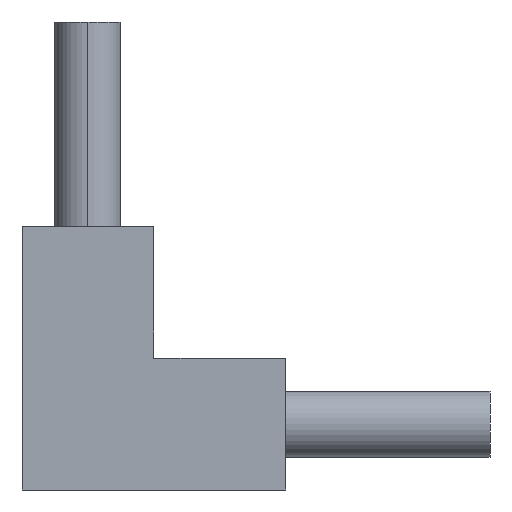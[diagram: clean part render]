
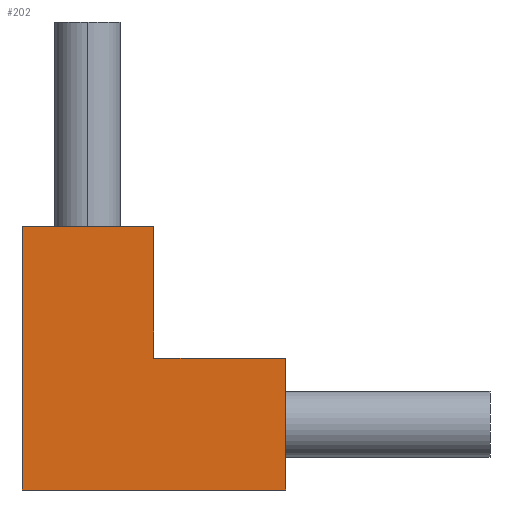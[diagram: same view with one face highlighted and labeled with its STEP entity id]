
A CAD part, front view. The second image highlights one B-rep face of the part: STEP entity #202.
In plain terms, the highlighted planar face has unit normal (0, -1, 0).
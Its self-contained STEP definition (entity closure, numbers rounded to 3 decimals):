
#29 = VECTOR ( 'NONE', #161, 1000. ) ;
#31 = DIRECTION ( 'NONE',  ( -1., 0., 0. ) ) ;
#43 = VECTOR ( 'NONE', #515, 1000. ) ;
#44 = ORIENTED_EDGE ( 'NONE', *, *, #386, .F. ) ;
#53 = CARTESIAN_POINT ( 'NONE',  ( -10., -10., 0. ) ) ;
#55 = VERTEX_POINT ( 'NONE', #532 ) ;
#57 = CARTESIAN_POINT ( 'NONE',  ( -10., -10., 40. ) ) ;
#115 = CARTESIAN_POINT ( 'NONE',  ( 30., -10., 0. ) ) ;
#116 = CARTESIAN_POINT ( 'NONE',  ( 10., -10., 0. ) ) ;
#124 = ORIENTED_EDGE ( 'NONE', *, *, #339, .F. ) ;
#130 = VERTEX_POINT ( 'NONE', #342 ) ;
#131 = PLANE ( 'NONE',  #391 ) ;
#149 = EDGE_LOOP ( 'NONE', ( #207, #582, #458, #166, #124, #44 ) ) ;
#150 = EDGE_CURVE ( 'NONE', #130, #55, #222, .T. ) ;
#161 = DIRECTION ( 'NONE',  ( 0., 0., -1. ) ) ;
#166 = ORIENTED_EDGE ( 'NONE', *, *, #150, .T. ) ;
#183 = DIRECTION ( 'NONE',  ( 1., 0., 0. ) ) ;
#202 = ADVANCED_FACE ( 'NONE', ( #497 ), #131, .F. ) ;
#207 = ORIENTED_EDGE ( 'NONE', *, *, #417, .T. ) ;
#219 = VERTEX_POINT ( 'NONE', #53 ) ;
#222 = LINE ( 'NONE', #455, #289 ) ;
#231 = DIRECTION ( 'NONE',  ( 0., 0., 1. ) ) ;
#246 = DIRECTION ( 'NONE',  ( -1., 0., 0. ) ) ;
#280 = VECTOR ( 'NONE', #183, 1000. ) ;
#289 = VECTOR ( 'NONE', #31, 1000. ) ;
#291 = VERTEX_POINT ( 'NONE', #115 ) ;
#306 = CARTESIAN_POINT ( 'NONE',  ( -10., -10., 40. ) ) ;
#323 = LINE ( 'NONE', #116, #416 ) ;
#338 = DIRECTION ( 'NONE',  ( 0., 1., 0. ) ) ;
#339 = EDGE_CURVE ( 'NONE', #487, #55, #423, .T. ) ;
#342 = CARTESIAN_POINT ( 'NONE',  ( 30., -10., 20. ) ) ;
#373 = CARTESIAN_POINT ( 'NONE',  ( 10., -10., 40. ) ) ;
#380 = VERTEX_POINT ( 'NONE', #57 ) ;
#386 = EDGE_CURVE ( 'NONE', #380, #487, #531, .T. ) ;
#391 = AXIS2_PLACEMENT_3D ( 'NONE', #499, #338, #246 ) ;
#406 = LINE ( 'NONE', #306, #29 ) ;
#416 = VECTOR ( 'NONE', #449, 1000. ) ;
#417 = EDGE_CURVE ( 'NONE', #380, #219, #406, .T. ) ;
#423 = LINE ( 'NONE', #566, #43 ) ;
#449 = DIRECTION ( 'NONE',  ( 1., 0., 0. ) ) ;
#455 = CARTESIAN_POINT ( 'NONE',  ( 30., -10., 20. ) ) ;
#458 = ORIENTED_EDGE ( 'NONE', *, *, #460, .T. ) ;
#459 = LINE ( 'NONE', #476, #575 ) ;
#460 = EDGE_CURVE ( 'NONE', #291, #130, #459, .T. ) ;
#474 = EDGE_CURVE ( 'NONE', #219, #291, #323, .T. ) ;
#476 = CARTESIAN_POINT ( 'NONE',  ( 30., -10., 20. ) ) ;
#487 = VERTEX_POINT ( 'NONE', #493 ) ;
#493 = CARTESIAN_POINT ( 'NONE',  ( 10., -10., 40. ) ) ;
#497 = FACE_OUTER_BOUND ( 'NONE', #149, .T. ) ;
#499 = CARTESIAN_POINT ( 'NONE',  ( 10., -10., 40. ) ) ;
#515 = DIRECTION ( 'NONE',  ( 0., 0., -1. ) ) ;
#531 = LINE ( 'NONE', #373, #280 ) ;
#532 = CARTESIAN_POINT ( 'NONE',  ( 10., -10., 20. ) ) ;
#566 = CARTESIAN_POINT ( 'NONE',  ( 10., -10., 40. ) ) ;
#575 = VECTOR ( 'NONE', #231, 1000. ) ;
#582 = ORIENTED_EDGE ( 'NONE', *, *, #474, .T. ) ;
